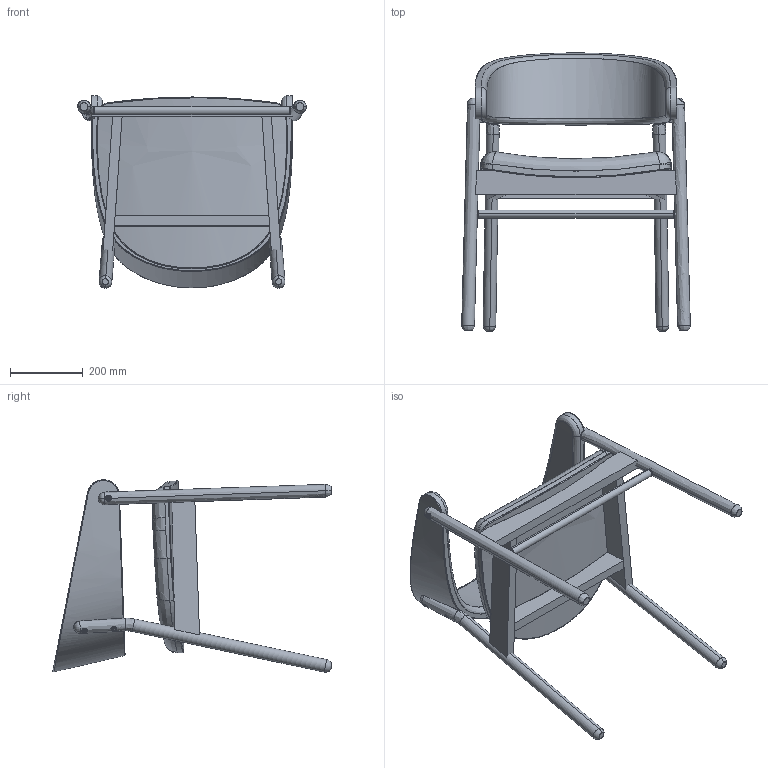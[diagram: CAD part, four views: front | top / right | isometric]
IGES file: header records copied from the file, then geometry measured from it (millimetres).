
Start section: SolidWorks IGES file using analytic representation for surfaces
Global section: file name: C:\Users\adao\Documents\Trab Adao\Desenho técnico PRODUÇÃO\J M S\Catalogo MORE 2016\CAMILLE\3D Cadeirão CAMILLE\(3D) CADEIRÃO CAMILLE M986C UU.IGS; native system: SolidWorks 2017; preprocessor: SolidWorks 2017; author: Adao; date: 170427.091658; units: millimetre
Bounding box: 627.26 x 763.09 x 527.82 mm (x, y, z)
Surface area: 1578952.6 mm2 (no closed solid volume)
Topology: 0 solids, 0 shells, 375 faces, 4787 edges, 4782 vertices
Faces by surface type: bspline 234, revolution 141
